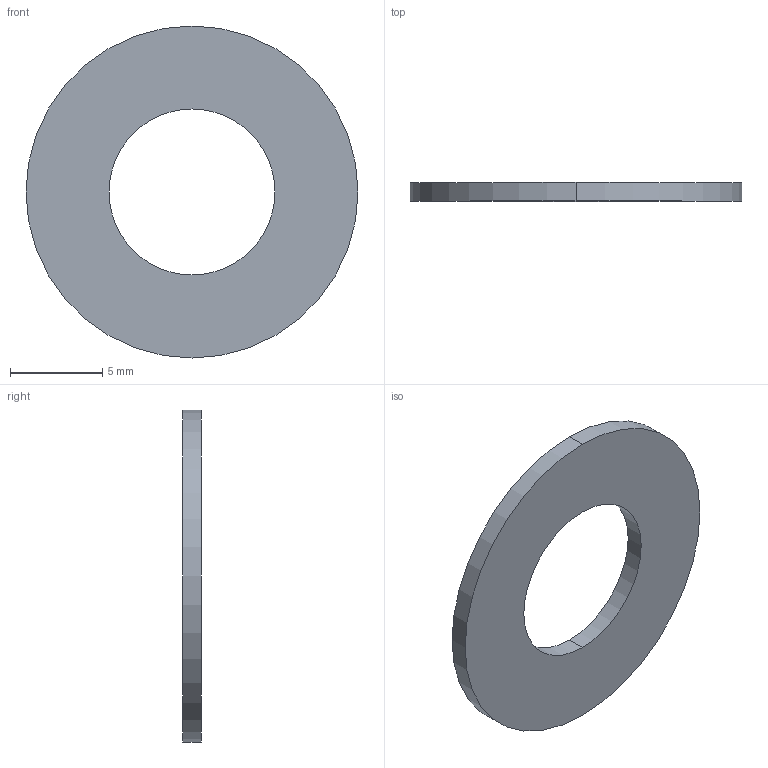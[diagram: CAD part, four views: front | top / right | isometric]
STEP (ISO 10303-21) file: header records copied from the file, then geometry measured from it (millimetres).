
FILE_DESCRIPTION(/* description */ ('STEP AP242 Edition 2','CAx-IF Rec.Pracs.---Representation and Presentation of Product Manufacturing Information (PMI)---4.0---2014-10-13','CAx-IF Rec.Pracs.---3D Tessellated Geometry---0.4---2014-09-14','2;1','CAx-IF Rec.Pracs.---User Defined Attributes---1.5---2016-08-15'),/* implementation_level */ '2;1');
FILE_NAME(/* name */ 'Assembly 1 - Part 3 (6)',/* time_stamp */ '2026-10-08T06:00:15Z',/* author */ (''),/* organization */ (''),/* preprocessor_version */ 'ST-DEVELOPER v20',/* originating_system */ 'ONSHAPE BY PTC INC, 1.221',/* authorisation */ ' ');
FILE_SCHEMA (('AP242_MANAGED_MODEL_BASED_3D_ENGINEERING_MIM_LF { 1 0 10303 442 3 1 4 }'));
Length unit declared in the file: metre
Products named in the file (1): Part 3
Bounding box: 18 x 1 x 18 mm (x, y, z)
Volume: 190.9 mm3; surface area: 466.5 mm2
Topology: 1 solids, 1 shells, 6 faces, 12 edges, 8 vertices
Faces by surface type: bspline 6
Entity records: 194 total; most frequent: CARTESIAN_POINT 65, ORIENTED_EDGE 24, DIRECTION 18, EDGE_CURVE 12, AXIS2_PLACEMENT_3D 9, VERTEX_POINT 8, CIRCLE 8, EDGE_LOOP 8
